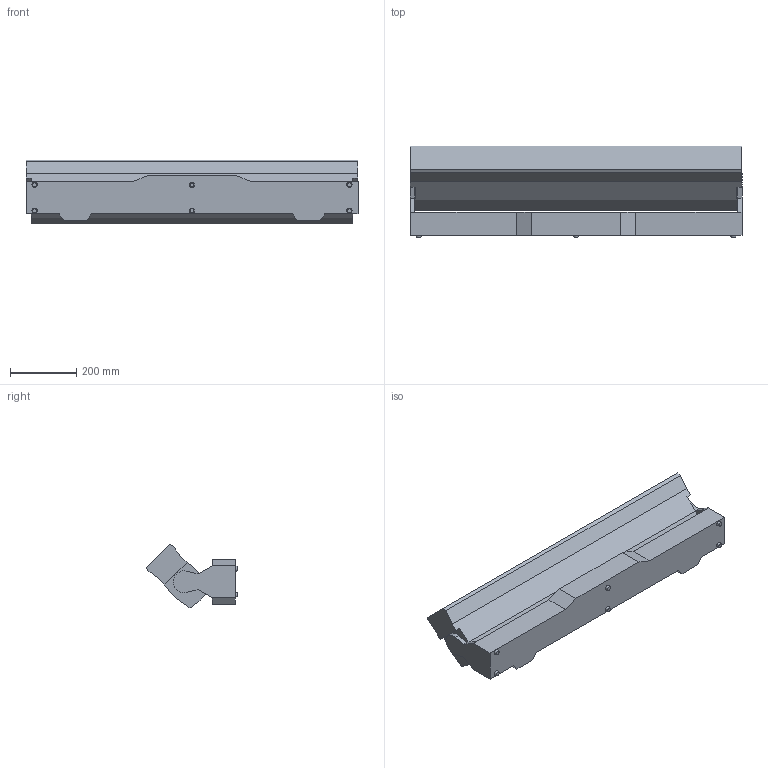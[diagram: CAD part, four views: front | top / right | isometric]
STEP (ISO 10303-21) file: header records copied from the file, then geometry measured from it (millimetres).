
FILE_DESCRIPTION(/* description */ (''),/* implementation_level */ '2;1');
FILE_NAME(/* name */ 'C:\Users\dgooch\Documents\CADENG\PRO\COLORado PXL 16\45\COLORado PXL 16_45.stp',/* time_stamp */ '2022-01-27T13:42:53-05:00',/* author */ ('dgooch'),/* organization */ (''),/* preprocessor_version */ 'ST-DEVELOPER v18.1',/* originating_system */ 'Autodesk Inventor 2022',/* authorisation */ '');
FILE_SCHEMA (('AUTOMOTIVE_DESIGN { 1 0 10303 214 3 1 1 }'));
Length unit declared in the file: millimetre
Products named in the file (3): COLORado PXL 16_45; Base; Head
Assembly tree (2 placements, depth 2):
  COLORado PXL 16_45
    Base
    Head
Bounding box: 1000 x 275.51 x 192.24 mm (x, y, z)
Volume: 25178801.9 mm3; surface area: 980891 mm2
Topology: 2 solids, 2 shells, 58 faces, 144 edges, 96 vertices
Faces by surface type: plane 49, cone 6, cylinder 3
Entity records: 1831 total; most frequent: CARTESIAN_POINT 303, ORIENTED_EDGE 288, DIRECTION 288, EDGE_CURVE 144, LINE 126, VECTOR 126, VERTEX_POINT 96, AXIS2_PLACEMENT_3D 81
